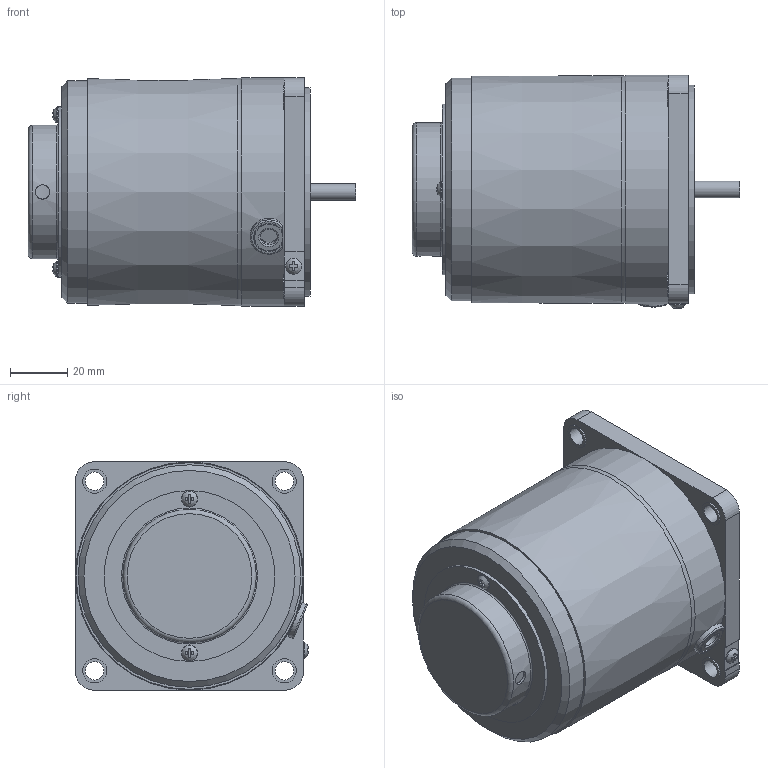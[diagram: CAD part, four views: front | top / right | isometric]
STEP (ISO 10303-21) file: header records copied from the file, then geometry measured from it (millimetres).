
FILE_DESCRIPTION(/* description */ (''),/* implementation_level */ '2;1');
FILE_NAME(/* name */ 'E:\도면작업\2016\0704) 미주향 SG 도면\3D MOTOR\SPEED CONTROL TYPE\SG8I(R)25G_-S12(24).stp',/* time_stamp */ '2017-08-21T11:07:43+09:00',/* author */ ('jy-jung'),/* organization */ (''),/* preprocessor_version */ 'ST-DEVELOPER v15.6',/* originating_system */ 'Autodesk Inventor 2015',/* authorisation */ '');
FILE_SCHEMA (('AUTOMOTIVE_DESIGN { 1 0 10303 214 3 1 1 }'));
Length unit declared in the file: millimetre
Products named in the file (1): 부품27
Bounding box: 114.8 x 81.76 x 80 mm (x, y, z)
Volume: 448231.7 mm3; surface area: 39800.5 mm2
Topology: 1 solids, 6 shells, 166 faces, 392 edges, 255 vertices
Faces by surface type: plane 104, cylinder 46, torus 10, bspline 3, cone 3
Full cylindrical faces by diameter (mm): 3 x2, 3.5 x2, 5 x1, 5.6 x3, 5.72 x1, 6 x1, 6.5 x4, 8.5 x4, 34 x1, 44.7 x1, 46.7 x1, 47.7 x1, 59.9 x1, 73 x1, 78 x1, 80 x1
Entity records: 5051 total; most frequent: CARTESIAN_POINT 1198, DIRECTION 734, ORIENTED_EDGE 700, EDGE_CURVE 350, AXIS2_PLACEMENT_3D 272, VERTEX_POINT 252, EDGE_LOOP 236, LINE 190
